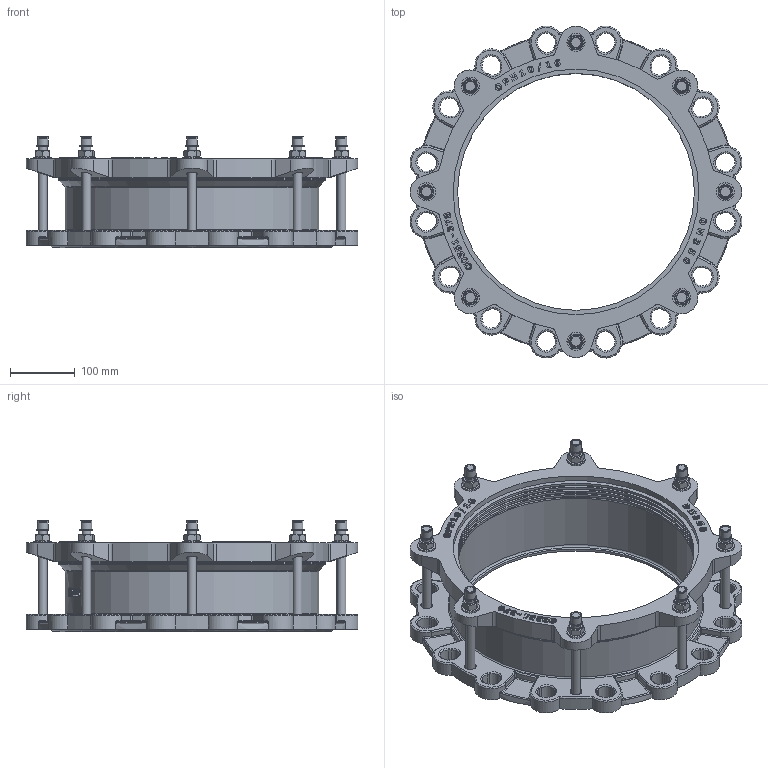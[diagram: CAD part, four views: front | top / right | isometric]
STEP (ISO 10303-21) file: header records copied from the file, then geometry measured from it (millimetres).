
FILE_DESCRIPTION(('STEP AP203'), '1');
FILE_NAME('Ôëàíöåâûé àäàïòåð', '', ('UNSPECIFIED'), ('UNSPECIFIED'), 'C3D Converter', 'C3D Toolkit', '');
FILE_SCHEMA(('CONFIG_CONTROL_DESIGN'));
Length unit declared in the file: millimetre
Assembly tree (35 placements, depth 2):
  (unnamed)
    (unnamed)
    (unnamed)  x8
    (unnamed)  x8
    (unnamed)  x8
    (unnamed)  x8
    (unnamed)
    (unnamed)
Bounding box: 510.95 x 510.95 x 171.4 mm (x, y, z)
Volume: 3902731.6 mm3; surface area: 920377.8 mm2
Topology: 35 solids, 35 shells, 1662 faces, 4171 edges, 2536 vertices
Faces by surface type: plane 507, cylinder 426, extrusion 410, torus 147, bspline 64, cone 60, sphere 48
Full cylindrical faces by diameter (mm): 13.478 x1, 14 x24, 15 x8, 16 x16, 16.8 x8, 19.6 x8, 28 x8, 364.5 x5, 371.25 x3, 378 x2, 384 x1, 390 x2, 411 x1, 414 x2
Entity records: 60031 total; most frequent: CARTESIAN_POINT 22611, ORIENTED_EDGE 6868, DIRECTION 5648, EDGE_CURVE 3434, VERTEX_POINT 2170, AXIS2_PLACEMENT_3D 1893, VECTOR 1862, EDGE_LOOP 1588
